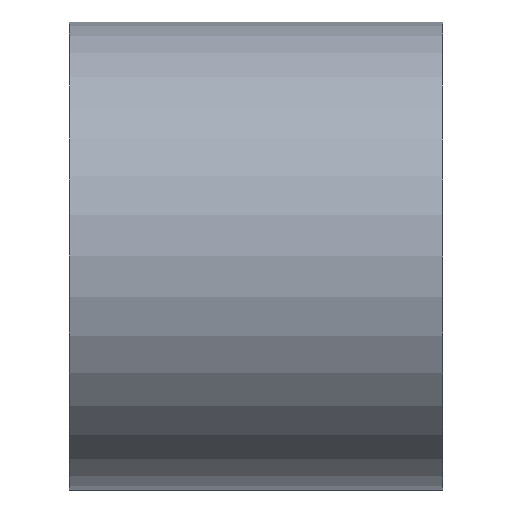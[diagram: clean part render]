
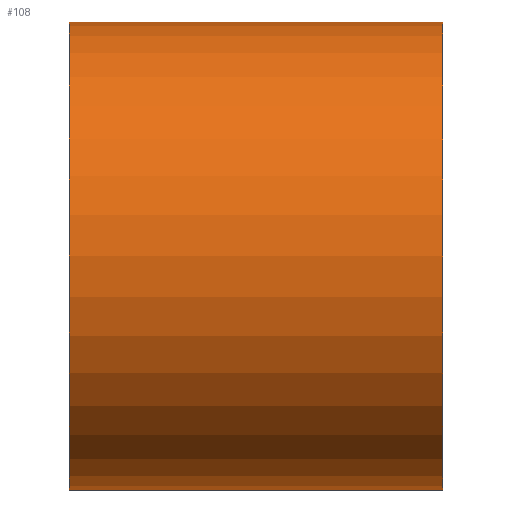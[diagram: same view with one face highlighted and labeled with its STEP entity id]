
A CAD part, front view. The second image highlights one B-rep face of the part: STEP entity #108.
In plain terms, the highlighted cylindrical face has radius 395 mm (diameter 790 mm), a partial arc.
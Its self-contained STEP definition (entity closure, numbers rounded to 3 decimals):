
#108=ADVANCED_FACE('',(#212),#213,.T.);
#212=FACE_OUTER_BOUND('',#335,.T.);
#213=CYLINDRICAL_SURFACE('',#336,395.0);
#335=EDGE_LOOP('',(#587,#588,#589,#590));
#336=AXIS2_PLACEMENT_3D('',#591,#592,#593);
#587=ORIENTED_EDGE('',*,*,#659,.T.);
#588=ORIENTED_EDGE('',*,*,#768,.F.);
#589=ORIENTED_EDGE('',*,*,#661,.T.);
#590=ORIENTED_EDGE('',*,*,#769,.F.);
#591=CARTESIAN_POINT('',(0.0,0.0,0.0));
#592=DIRECTION('',(1.0,0.0,0.0));
#593=DIRECTION('',(0.0,0.0,-1.0));
#659=EDGE_CURVE('',#773,#774,#775,.T.);
#661=EDGE_CURVE('',#778,#776,#779,.T.);
#768=EDGE_CURVE('',#778,#774,#938,.T.);
#769=EDGE_CURVE('',#773,#776,#939,.T.);
#773=VERTEX_POINT('',#943);
#774=VERTEX_POINT('',#944);
#775=LINE('',#945,#946);
#776=VERTEX_POINT('',#947);
#778=VERTEX_POINT('',#949);
#779=LINE('',#950,#951);
#938=CIRCLE('',#1136,395.0);
#939=CIRCLE('',#1137,395.0);
#943=CARTESIAN_POINT('',(-315.0,0.0,-395.0));
#944=CARTESIAN_POINT('',(315.0,0.0,-395.0));
#945=CARTESIAN_POINT('',(0.0,0.,-395.0));
#946=VECTOR('',#1140,1.0);
#947=CARTESIAN_POINT('',(-315.0,0.,395.0));
#949=CARTESIAN_POINT('',(315.0,0.,395.0));
#950=CARTESIAN_POINT('',(0.0,0.,395.0));
#951=VECTOR('',#1144,1.0);
#1136=AXIS2_PLACEMENT_3D('',#1330,#1331,#1332);
#1137=AXIS2_PLACEMENT_3D('',#1333,#1334,#1335);
#1140=DIRECTION('',(1.0,0.0,0.0));
#1144=DIRECTION('',(-1.0,-0.0,-0.0));
#1330=CARTESIAN_POINT('',(315.0,0.0,0.0));
#1331=DIRECTION('',(1.0,0.0,0.0));
#1332=DIRECTION('',(0.0,0.0,-1.0));
#1333=CARTESIAN_POINT('',(-315.0,0.0,0.0));
#1334=DIRECTION('',(-1.0,0.0,0.0));
#1335=DIRECTION('',(0.0,0.0,-1.0));
